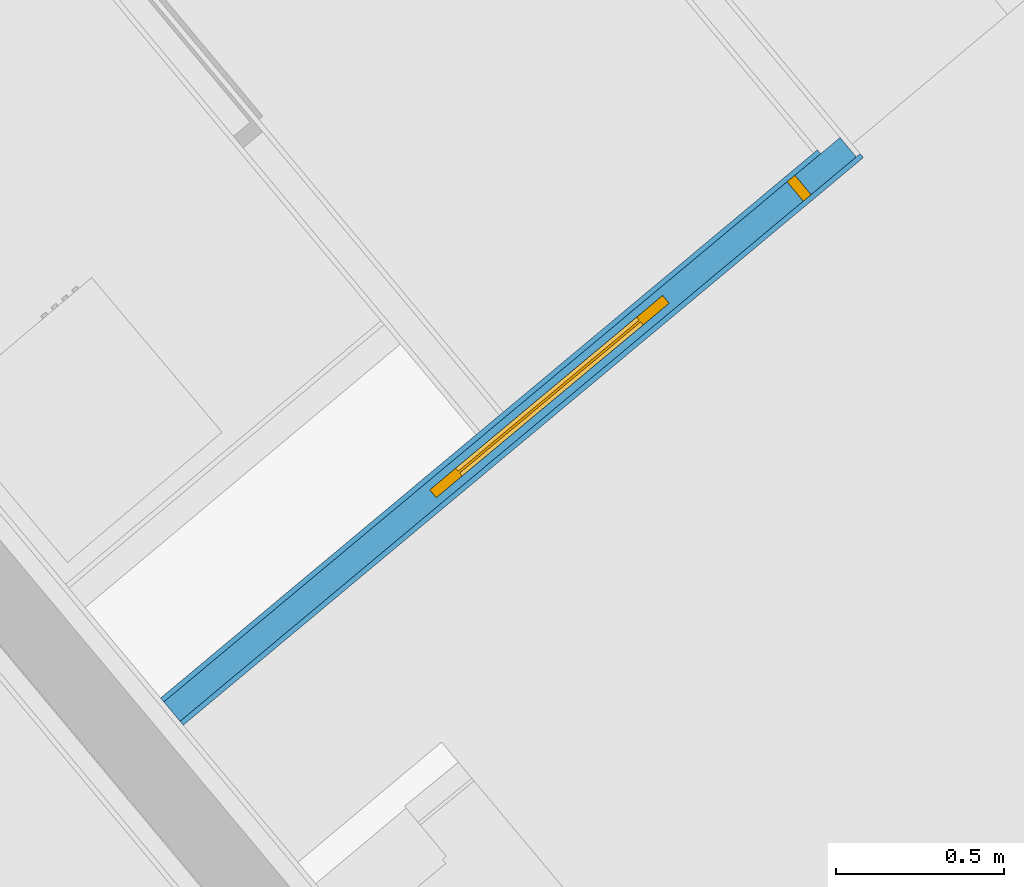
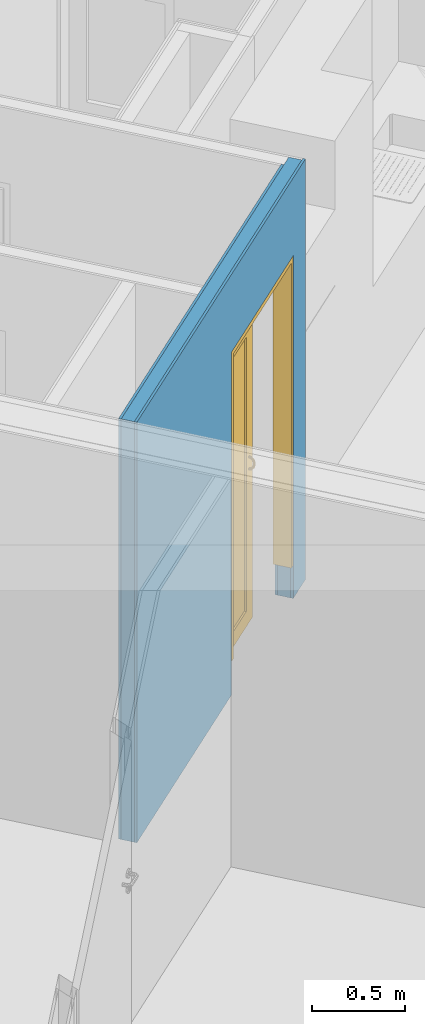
# One storey, part 13 of 61: 3 building element parts, 1 door, 1 opening, 1 element without a shape of its own.
"""IFC4 building model written with IfcOpenShell, lengths in metres."""

from ifc_helpers import new_model, entity, si_unit, converted_unit, derived_unit, direction, frame, origin_with_axes, place, context, subcontext, project, spatial, polygons, source, transform, mapped, material, type_object, element, fill, aggregate, save


model = new_model("IFC4")

# Units and contexts
model_context = context("Model", 3, precision=1e-05, world=origin_with_axes(), true_north=direction((0.0, 1.0)))
body_context = subcontext(model_context, "Body", "Model", "MODEL_VIEW")
ifc_project = project(units=[si_unit("LENGTHUNIT", "METRE"), si_unit("AREAUNIT", "SQUARE_METRE"), si_unit("VOLUMEUNIT", "CUBIC_METRE"), converted_unit("PLANEANGLEUNIT", "DEGREE", entity("IfcPlaneAngleMeasure", 0.0174532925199), si_unit("PLANEANGLEUNIT", "RADIAN"), dimensions=[0, 0, 0, 0, 0, 0, 0]), converted_unit("TIMEUNIT", "Year", entity("IfcTimeMeasure", 31556926.0), si_unit("TIMEUNIT", "SECOND"), dimensions=[0, 0, 1, 0, 0, 0, 0]), si_unit("MASSUNIT", "GRAM", prefix="KILO"), si_unit("THERMODYNAMICTEMPERATUREUNIT", "DEGREE_CELSIUS"), si_unit("LUMINOUSINTENSITYUNIT", "LUMEN"), si_unit("ENERGYUNIT", "JOULE", prefix="MEGA"), derived_unit("THERMALCONDUCTANCEUNIT", [(si_unit("POWERUNIT", "WATT"), 1), (si_unit("LENGTHUNIT", "METRE"), -1), (si_unit("THERMODYNAMICTEMPERATUREUNIT", "KELVIN"), -1)]), derived_unit("SPECIFICHEATCAPACITYUNIT", [(si_unit("ENERGYUNIT", "JOULE"), 1), (si_unit("MASSUNIT", "GRAM", prefix="KILO"), -1), (si_unit("THERMODYNAMICTEMPERATUREUNIT", "KELVIN"), -1)]), derived_unit("MASSDENSITYUNIT", [(si_unit("MASSUNIT", "GRAM", prefix="KILO"), 1), (si_unit("VOLUMEUNIT", "CUBIC_METRE"), -1)])], contexts=[model_context])

# Site, building, storey
site_placement = place(None, frame((-0.00153261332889, -0.00661245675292, 0.0), z_axis=(0.0, 0.0, 1.0), x_axis=(1.0, 0.0, 0.0)))
site = spatial("IfcSite", under=ifc_project, at=site_placement, Name="Gelände", CompositionType="ELEMENT")
building_placement = place(site_placement, origin_with_axes())
building = spatial("IfcBuilding", under=site, at=building_placement, Name="Gebäude", CompositionType="ELEMENT")
storey_placement = place(building_placement, frame((0.0, 0.0, 5.7), z_axis=(0.0, 0.0, 1.0), x_axis=(1.0, 0.0, 0.0)))
storey = spatial("IfcBuildingStorey", under=building, at=storey_placement, Name="DG1", CompositionType="ELEMENT", Elevation=5.7)

# Door
door_type = type_object("IfcDoorType", Name="Schiebetür 02 1-Fl 26", OperationType="SLIDING_TO_RIGHT", PredefinedType="NOTDEFINED")
shared_shape = source(origin_with_axes(), body_context, "Body", "Tessellation", [
    polygons([(-0.48, 0.0, 0.0), (-0.48, 0.0, 2.03), (0.48, 0.0, 2.03), (0.48, 0.0, 0.0), (0.45, 0.0, 0.0), (0.45, 0.0, 2.0), (-0.45, 0.0, 2.0), (-0.45, 0.0, 0.0)], [[[1, 2, 3, 4, 5, 6, 7, 8]]], closed=False),
    polygons([(-0.45, -0.09, 0.0), (-0.45, -0.09, 2.0), (-0.45, -0.105, 2.0), (-0.45, -0.105, 0.0), (-0.48, -0.09, 0.0), (-0.48, -0.09, 2.0), (-0.48, -0.015, 2.0), (-0.45, -0.015, 2.0), (-0.45, 0.0, 2.0), (0.45, 0.0, 2.0), (0.45, -0.105, 2.0), (0.48, -0.105, 0.0), (0.48, -0.105, 2.03), (-0.48, -0.105, 2.03), (-0.48, -0.105, 0.0), (0.45, -0.105, 0.0), (-0.48, 0.0, 2.03), (-0.48, 0.0, 0.0), (-0.48, -0.015, 0.0), (-0.45, -0.015, 0.0), (-0.45, 0.0, 0.0), (0.48, 0.0, 2.03), (0.48, 0.0, 0.0), (0.45, 0.0, 0.0)], [[[1, 2, 3, 4]], [[2, 1, 5, 6]], [[2, 6, 7, 8, 9, 10, 11, 3]], [[12, 13, 14, 15, 4, 3, 11, 16]], [[5, 1, 4, 15]], [[6, 5, 15, 14, 17, 18, 19, 7]], [[20, 8, 7, 19]], [[8, 20, 21, 9]], [[10, 9, 21, 18, 17, 22, 23, 24]], [[24, 16, 11, 10]], [[22, 13, 12, 23]], [[17, 14, 13, 22]], [[23, 12, 16, 24]], [[20, 19, 18, 21]]], closed=True),
    polygons([(-0.48, -0.105, 0.0), (-0.48, -0.105, 2.03), (0.48, -0.105, 2.03), (0.48, -0.105, 0.0), (0.45, -0.105, 0.0), (0.45, -0.105, 2.0), (-0.45, -0.105, 2.0), (-0.45, -0.105, 0.0)], [[[1, 2, 3, 4, 5, 6, 7, 8]]], closed=False),
    polygons([(-0.94995, -0.0375, 0.1), (-0.84995, -0.0375, 0.1), (-0.84995, -0.0675, 0.1), (-0.94995, -0.0675, 0.1), (-0.94995, -0.0375, 1.8999), (-0.84995, -0.0375, 1.8999), (-0.84995, -0.0675, 1.8999), (-0.94995, -0.0675, 1.8999)], [[[1, 2, 3, 4]], [[1, 5, 6, 2]], [[2, 6, 7, 3]], [[4, 3, 7, 8]], [[5, 1, 4, 8]], [[6, 5, 8, 7]]], closed=True),
    polygons([(-0.05005, -0.0375, 1.8999), (-0.15005, -0.0375, 1.8999), (-0.15005, -0.0675, 1.8999), (-0.05005, -0.0675, 1.8999), (-0.05005, -0.0375, 0.1), (-0.15005, -0.0375, 0.1), (-0.15005, -0.0675, 0.1), (-0.05005, -0.0675, 0.1)], [[[1, 2, 3, 4]], [[1, 5, 6, 2]], [[2, 6, 7, 3]], [[4, 3, 7, 8]], [[5, 1, 4, 8]], [[6, 5, 8, 7]]], closed=True),
    polygons([(-0.05005, -0.0375, 0.0), (-0.05005, -0.0375, 0.1), (-0.05005, -0.0675, 0.1), (-0.05005, -0.0675, 0.0), (-0.94995, -0.0375, 0.0), (-0.94995, -0.0375, 0.1), (-0.84995, -0.0375, 0.1), (-0.15005, -0.0375, 0.1), (-0.15005, -0.0675, 0.1), (-0.84995, -0.0675, 0.1), (-0.94995, -0.0675, 0.1), (-0.94995, -0.0675, 0.0)], [[[1, 2, 3, 4]], [[1, 5, 6, 7, 8, 2]], [[2, 8, 9, 3]], [[4, 3, 9, 10, 11, 12]], [[5, 1, 4, 12]], [[6, 5, 12, 11]], [[7, 6, 11, 10]], [[8, 7, 10, 9]]], closed=True),
    polygons([(-0.94995, -0.0375, 1.9999), (-0.94995, -0.0375, 1.8999), (-0.94995, -0.0675, 1.8999), (-0.94995, -0.0675, 1.9999), (-0.05005, -0.0375, 1.9999), (-0.05005, -0.0375, 1.8999), (-0.15005, -0.0375, 1.8999), (-0.84995, -0.0375, 1.8999), (-0.84995, -0.0675, 1.8999), (-0.15005, -0.0675, 1.8999), (-0.05005, -0.0675, 1.8999), (-0.05005, -0.0675, 1.9999)], [[[1, 2, 3, 4]], [[1, 5, 6, 7, 8, 2]], [[2, 8, 9, 3]], [[4, 3, 9, 10, 11, 12]], [[5, 1, 4, 12]], [[6, 5, 12, 11]], [[7, 6, 11, 10]], [[8, 7, 10, 9]]], closed=True),
    polygons([(-0.84995, -0.049, 0.1), (-0.15005, -0.049, 0.1), (-0.15005, -0.056, 0.1), (-0.84995, -0.056, 0.1), (-0.84995, -0.049, 1.8999), (-0.15005, -0.049, 1.8999), (-0.15005, -0.056, 1.8999), (-0.84995, -0.056, 1.8999)], [[[1, 2, 3, 4]], [[1, 5, 6, 2]], [[2, 6, 7, 3]], [[4, 3, 7, 8]], [[5, 1, 4, 8]], [[6, 5, 8, 7]]], closed=True),
    polygons([(-0.11705, -0.0825, 1.08598076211), (-0.116112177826, -0.08425, 1.08901185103), (-0.116112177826, -0.0675, 1.0935), (-0.11705, -0.0675, 1.09), (-0.11705, -0.0934807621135, 1.075), (-0.116112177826, -0.0965118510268, 1.07675), (-0.11355, -0.0855310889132, 1.09123076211), (-0.11355, -0.0675, 1.09606217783), (-0.11005, -0.0675, 1.097), (-0.10655, -0.0675, 1.09606217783), (-0.103987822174, -0.0675, 1.0935), (-0.10305, -0.0675, 1.09), (-0.103987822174, -0.0675, 1.0865), (-0.10655, -0.0675, 1.08393782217), (-0.11005, -0.0675, 1.083), (-0.11355, -0.0675, 1.08393782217), (-0.116112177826, -0.0675, 1.0865), (-0.116112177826, -0.08075, 1.0829496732), (-0.11705, -0.0975, 1.06), (-0.116112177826, -0.101, 1.06), (-0.11355, -0.0987307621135, 1.07803108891), (-0.116112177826, -0.0904496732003, 1.07325), (-0.11005, -0.086, 1.09204293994), (-0.10655, -0.0855310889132, 1.09123076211), (-0.103987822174, -0.08425, 1.08901185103), (-0.10305, -0.0825, 1.08598076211), (-0.103987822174, -0.08075, 1.0829496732), (-0.10655, -0.0794689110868, 1.08073076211), (-0.11005, -0.079, 1.07991858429), (-0.11355, -0.0794689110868, 1.08073076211), (-0.116112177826, -0.094, 1.06), (-0.11355, -0.0914378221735, 1.06), (-0.11005, -0.0905, 1.06), (-0.10655, -0.0914378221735, 1.06), (-0.103987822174, -0.094, 1.06), (-0.10305, -0.0975, 1.06), (-0.103987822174, -0.101, 1.06), (-0.10655, -0.103562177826, 1.06), (-0.11005, -0.1045, 1.06), (-0.11355, -0.103562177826, 1.06), (-0.11005, -0.09954293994, 1.0785), (-0.11355, -0.0882307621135, 1.07196891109), (-0.10655, -0.0987307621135, 1.07803108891), (-0.103987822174, -0.0965118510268, 1.07675), (-0.10305, -0.0934807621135, 1.075), (-0.103987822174, -0.0904496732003, 1.07325), (-0.10655, -0.0882307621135, 1.07196891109), (-0.11005, -0.087418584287, 1.0715)], [[[1, 2, 3, 4]], [[5, 6, 2, 1]], [[2, 7, 8, 3]], [[4, 3, 8, 9, 10, 11, 12, 13, 14, 15, 16, 17]], [[18, 1, 4, 17]], [[19, 20, 6, 5]], [[6, 21, 7, 2]], [[22, 5, 1, 18]], [[7, 23, 9, 8]], [[23, 24, 10, 9]], [[24, 25, 11, 10]], [[25, 26, 12, 11]], [[26, 27, 13, 12]], [[27, 28, 14, 13]], [[28, 29, 15, 14]], [[29, 30, 16, 15]], [[30, 18, 17, 16]], [[19, 31, 32, 33, 34, 35, 36, 37, 38, 39, 40, 20]], [[20, 40, 21, 6]], [[31, 19, 5, 22]], [[21, 41, 23, 7]], [[42, 22, 18, 30]], [[41, 43, 24, 23]], [[43, 44, 25, 24]], [[44, 45, 26, 25]], [[45, 46, 27, 26]], [[46, 47, 28, 27]], [[47, 48, 29, 28]], [[48, 42, 30, 29]], [[32, 31, 22, 42]], [[33, 32, 42, 48]], [[34, 33, 48, 47]], [[35, 34, 47, 46]], [[36, 35, 46, 45]], [[37, 36, 45, 44]], [[38, 37, 44, 43]], [[39, 38, 43, 41]], [[40, 39, 41, 21]]], closed=True),
    polygons([(-0.10305, -0.0825, 1.01401923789), (-0.103987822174, -0.08425, 1.01098814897), (-0.103987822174, -0.0675, 1.0065), (-0.10305, -0.0675, 1.01), (-0.10305, -0.0934807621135, 1.025), (-0.103987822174, -0.0965118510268, 1.02325), (-0.10655, -0.0855310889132, 1.00876923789), (-0.10655, -0.0675, 1.00393782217), (-0.11005, -0.0675, 1.003), (-0.11355, -0.0675, 1.00393782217), (-0.116112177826, -0.0675, 1.0065), (-0.11705, -0.0675, 1.01), (-0.116112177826, -0.0675, 1.0135), (-0.11355, -0.0675, 1.01606217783), (-0.11005, -0.0675, 1.017), (-0.10655, -0.0675, 1.01606217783), (-0.103987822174, -0.0675, 1.0135), (-0.103987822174, -0.08075, 1.0170503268), (-0.10305, -0.0975, 1.04), (-0.103987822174, -0.101, 1.04), (-0.10655, -0.0987307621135, 1.02196891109), (-0.103987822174, -0.0904496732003, 1.02675), (-0.11005, -0.086, 1.00795706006), (-0.11355, -0.0855310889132, 1.00876923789), (-0.116112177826, -0.08425, 1.01098814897), (-0.11705, -0.0825, 1.01401923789), (-0.116112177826, -0.08075, 1.0170503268), (-0.11355, -0.0794689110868, 1.01926923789), (-0.11005, -0.079, 1.02008141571), (-0.10655, -0.0794689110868, 1.01926923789), (-0.103987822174, -0.094, 1.04), (-0.10655, -0.0914378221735, 1.04), (-0.11005, -0.0905, 1.04), (-0.11355, -0.0914378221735, 1.04), (-0.116112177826, -0.094, 1.04), (-0.11705, -0.0975, 1.04), (-0.116112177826, -0.101, 1.04), (-0.11355, -0.103562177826, 1.04), (-0.11005, -0.1045, 1.04), (-0.10655, -0.103562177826, 1.04), (-0.11005, -0.09954293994, 1.0215), (-0.10655, -0.0882307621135, 1.02803108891), (-0.11355, -0.0987307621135, 1.02196891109), (-0.116112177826, -0.0965118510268, 1.02325), (-0.11705, -0.0934807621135, 1.025), (-0.116112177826, -0.0904496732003, 1.02675), (-0.11355, -0.0882307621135, 1.02803108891), (-0.11005, -0.087418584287, 1.0285)], [[[1, 2, 3, 4]], [[5, 6, 2, 1]], [[2, 7, 8, 3]], [[4, 3, 8, 9, 10, 11, 12, 13, 14, 15, 16, 17]], [[18, 1, 4, 17]], [[19, 20, 6, 5]], [[6, 21, 7, 2]], [[22, 5, 1, 18]], [[7, 23, 9, 8]], [[23, 24, 10, 9]], [[24, 25, 11, 10]], [[25, 26, 12, 11]], [[26, 27, 13, 12]], [[27, 28, 14, 13]], [[28, 29, 15, 14]], [[29, 30, 16, 15]], [[30, 18, 17, 16]], [[19, 31, 32, 33, 34, 35, 36, 37, 38, 39, 40, 20]], [[20, 40, 21, 6]], [[31, 19, 5, 22]], [[21, 41, 23, 7]], [[42, 22, 18, 30]], [[41, 43, 24, 23]], [[43, 44, 25, 24]], [[44, 45, 26, 25]], [[45, 46, 27, 26]], [[46, 47, 28, 27]], [[47, 48, 29, 28]], [[48, 42, 30, 29]], [[32, 31, 22, 42]], [[33, 32, 42, 48]], [[34, 33, 48, 47]], [[35, 34, 47, 46]], [[36, 35, 46, 45]], [[37, 36, 45, 44]], [[38, 37, 44, 43]], [[39, 38, 43, 41]], [[40, 39, 41, 21]]], closed=True),
    polygons([(-0.11705, -0.0975, 1.04), (-0.11705, -0.0975, 1.06), (-0.116112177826, -0.094, 1.06), (-0.116112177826, -0.094, 1.04), (-0.116112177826, -0.101, 1.04), (-0.116112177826, -0.101, 1.06), (-0.11355, -0.103562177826, 1.06), (-0.11005, -0.1045, 1.06), (-0.10655, -0.103562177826, 1.06), (-0.103987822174, -0.101, 1.06), (-0.10305, -0.0975, 1.06), (-0.103987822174, -0.094, 1.06), (-0.10655, -0.0914378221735, 1.06), (-0.11005, -0.0905, 1.06), (-0.11355, -0.0914378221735, 1.06), (-0.11355, -0.0914378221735, 1.04), (-0.11005, -0.0905, 1.04), (-0.10655, -0.0914378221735, 1.04), (-0.103987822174, -0.094, 1.04), (-0.10305, -0.0975, 1.04), (-0.103987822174, -0.101, 1.04), (-0.10655, -0.103562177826, 1.04), (-0.11005, -0.1045, 1.04), (-0.11355, -0.103562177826, 1.04)], [[[1, 2, 3, 4]], [[5, 6, 2, 1]], [[2, 6, 7, 8, 9, 10, 11, 12, 13, 14, 15, 3]], [[4, 3, 15, 16]], [[1, 4, 16, 17, 18, 19, 20, 21, 22, 23, 24, 5]], [[24, 7, 6, 5]], [[23, 8, 7, 24]], [[22, 9, 8, 23]], [[21, 10, 9, 22]], [[20, 11, 10, 21]], [[19, 12, 11, 20]], [[18, 13, 12, 19]], [[17, 14, 13, 18]], [[16, 15, 14, 17]]], closed=True),
    polygons([(-0.11705, -0.0225, 1.08598076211), (-0.11705, -0.0375, 1.09), (-0.116112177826, -0.0375, 1.0935), (-0.116112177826, -0.02075, 1.08901185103), (-0.116112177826, -0.02425, 1.0829496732), (-0.116112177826, -0.0375, 1.0865), (-0.11355, -0.0375, 1.08393782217), (-0.11005, -0.0375, 1.083), (-0.10655, -0.0375, 1.08393782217), (-0.103987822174, -0.0375, 1.0865), (-0.10305, -0.0375, 1.09), (-0.103987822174, -0.0375, 1.0935), (-0.10655, -0.0375, 1.09606217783), (-0.11005, -0.0375, 1.097), (-0.11355, -0.0375, 1.09606217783), (-0.11355, -0.0194689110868, 1.09123076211), (-0.11705, -0.0115192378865, 1.075), (-0.116112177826, -0.00848814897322, 1.07675), (-0.11355, -0.0255310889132, 1.08073076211), (-0.116112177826, -0.0145503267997, 1.07325), (-0.11005, -0.026, 1.07991858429), (-0.10655, -0.0255310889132, 1.08073076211), (-0.103987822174, -0.02425, 1.0829496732), (-0.10305, -0.0225, 1.08598076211), (-0.103987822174, -0.02075, 1.08901185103), (-0.10655, -0.0194689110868, 1.09123076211), (-0.11005, -0.019, 1.09204293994), (-0.11355, -0.00626923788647, 1.07803108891), (-0.11705, -0.0075, 1.06), (-0.116112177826, -0.004, 1.06), (-0.11355, -0.0167692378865, 1.07196891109), (-0.116112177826, -0.011, 1.06), (-0.11005, -0.017581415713, 1.0715), (-0.10655, -0.0167692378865, 1.07196891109), (-0.103987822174, -0.0145503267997, 1.07325), (-0.10305, -0.0115192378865, 1.075), (-0.103987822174, -0.00848814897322, 1.07675), (-0.10655, -0.00626923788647, 1.07803108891), (-0.11005, -0.00545706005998, 1.0785), (-0.11355, -0.00143782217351, 1.06), (-0.11005, -0.0005, 1.06), (-0.10655, -0.00143782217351, 1.06), (-0.103987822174, -0.004, 1.06), (-0.10305, -0.0075, 1.06), (-0.103987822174, -0.011, 1.06), (-0.10655, -0.0135621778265, 1.06), (-0.11005, -0.0145, 1.06), (-0.11355, -0.0135621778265, 1.06)], [[[1, 2, 3, 4]], [[5, 6, 2, 1]], [[2, 6, 7, 8, 9, 10, 11, 12, 13, 14, 15, 3]], [[4, 3, 15, 16]], [[17, 1, 4, 18]], [[19, 7, 6, 5]], [[20, 5, 1, 17]], [[21, 8, 7, 19]], [[22, 9, 8, 21]], [[23, 10, 9, 22]], [[24, 11, 10, 23]], [[25, 12, 11, 24]], [[26, 13, 12, 25]], [[27, 14, 13, 26]], [[16, 15, 14, 27]], [[18, 4, 16, 28]], [[29, 17, 18, 30]], [[31, 19, 5, 20]], [[32, 20, 17, 29]], [[33, 21, 19, 31]], [[34, 22, 21, 33]], [[35, 23, 22, 34]], [[36, 24, 23, 35]], [[37, 25, 24, 36]], [[38, 26, 25, 37]], [[39, 27, 26, 38]], [[28, 16, 27, 39]], [[30, 18, 28, 40]], [[29, 30, 40, 41, 42, 43, 44, 45, 46, 47, 48, 32]], [[48, 31, 20, 32]], [[47, 33, 31, 48]], [[46, 34, 33, 47]], [[45, 35, 34, 46]], [[44, 36, 35, 45]], [[43, 37, 36, 44]], [[42, 38, 37, 43]], [[41, 39, 38, 42]], [[40, 28, 39, 41]]], closed=True),
    polygons([(-0.10305, -0.0225, 1.01401923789), (-0.10305, -0.0375, 1.01), (-0.103987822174, -0.0375, 1.0065), (-0.103987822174, -0.02075, 1.01098814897), (-0.103987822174, -0.02425, 1.0170503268), (-0.103987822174, -0.0375, 1.0135), (-0.10655, -0.0375, 1.01606217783), (-0.11005, -0.0375, 1.017), (-0.11355, -0.0375, 1.01606217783), (-0.116112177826, -0.0375, 1.0135), (-0.11705, -0.0375, 1.01), (-0.116112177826, -0.0375, 1.0065), (-0.11355, -0.0375, 1.00393782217), (-0.11005, -0.0375, 1.003), (-0.10655, -0.0375, 1.00393782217), (-0.10655, -0.0194689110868, 1.00876923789), (-0.10305, -0.0115192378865, 1.025), (-0.103987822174, -0.00848814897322, 1.02325), (-0.10655, -0.0255310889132, 1.01926923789), (-0.103987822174, -0.0145503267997, 1.02675), (-0.11005, -0.026, 1.02008141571), (-0.11355, -0.0255310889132, 1.01926923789), (-0.116112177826, -0.02425, 1.0170503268), (-0.11705, -0.0225, 1.01401923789), (-0.116112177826, -0.02075, 1.01098814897), (-0.11355, -0.0194689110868, 1.00876923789), (-0.11005, -0.019, 1.00795706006), (-0.10655, -0.00626923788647, 1.02196891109), (-0.10305, -0.0075, 1.04), (-0.103987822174, -0.004, 1.04), (-0.10655, -0.0167692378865, 1.02803108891), (-0.103987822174, -0.011, 1.04), (-0.11005, -0.017581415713, 1.0285), (-0.11355, -0.0167692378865, 1.02803108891), (-0.116112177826, -0.0145503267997, 1.02675), (-0.11705, -0.0115192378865, 1.025), (-0.116112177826, -0.00848814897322, 1.02325), (-0.11355, -0.00626923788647, 1.02196891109), (-0.11005, -0.00545706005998, 1.0215), (-0.10655, -0.00143782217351, 1.04), (-0.11005, -0.0005, 1.04), (-0.11355, -0.00143782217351, 1.04), (-0.116112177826, -0.004, 1.04), (-0.11705, -0.0075, 1.04), (-0.116112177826, -0.011, 1.04), (-0.11355, -0.0135621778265, 1.04), (-0.11005, -0.0145, 1.04), (-0.10655, -0.0135621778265, 1.04)], [[[1, 2, 3, 4]], [[5, 6, 2, 1]], [[2, 6, 7, 8, 9, 10, 11, 12, 13, 14, 15, 3]], [[4, 3, 15, 16]], [[17, 1, 4, 18]], [[19, 7, 6, 5]], [[20, 5, 1, 17]], [[21, 8, 7, 19]], [[22, 9, 8, 21]], [[23, 10, 9, 22]], [[24, 11, 10, 23]], [[25, 12, 11, 24]], [[26, 13, 12, 25]], [[27, 14, 13, 26]], [[16, 15, 14, 27]], [[18, 4, 16, 28]], [[29, 17, 18, 30]], [[31, 19, 5, 20]], [[32, 20, 17, 29]], [[33, 21, 19, 31]], [[34, 22, 21, 33]], [[35, 23, 22, 34]], [[36, 24, 23, 35]], [[37, 25, 24, 36]], [[38, 26, 25, 37]], [[39, 27, 26, 38]], [[28, 16, 27, 39]], [[30, 18, 28, 40]], [[29, 30, 40, 41, 42, 43, 44, 45, 46, 47, 48, 32]], [[48, 31, 20, 32]], [[47, 33, 31, 48]], [[46, 34, 33, 47]], [[45, 35, 34, 46]], [[44, 36, 35, 45]], [[43, 37, 36, 44]], [[42, 38, 37, 43]], [[41, 39, 38, 42]], [[40, 28, 39, 41]]], closed=True),
    polygons([(-0.11705, -0.0075, 1.04), (-0.116112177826, -0.011, 1.04), (-0.116112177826, -0.011, 1.06), (-0.11705, -0.0075, 1.06), (-0.116112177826, -0.004, 1.04), (-0.11355, -0.00143782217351, 1.04), (-0.11005, -0.0005, 1.04), (-0.10655, -0.00143782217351, 1.04), (-0.103987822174, -0.004, 1.04), (-0.10305, -0.0075, 1.04), (-0.103987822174, -0.011, 1.04), (-0.10655, -0.0135621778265, 1.04), (-0.11005, -0.0145, 1.04), (-0.11355, -0.0135621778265, 1.04), (-0.11355, -0.0135621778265, 1.06), (-0.11005, -0.0145, 1.06), (-0.10655, -0.0135621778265, 1.06), (-0.103987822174, -0.011, 1.06), (-0.10305, -0.0075, 1.06), (-0.103987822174, -0.004, 1.06), (-0.10655, -0.00143782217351, 1.06), (-0.11005, -0.0005, 1.06), (-0.11355, -0.00143782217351, 1.06), (-0.116112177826, -0.004, 1.06)], [[[1, 2, 3, 4]], [[1, 5, 6, 7, 8, 9, 10, 11, 12, 13, 14, 2]], [[2, 14, 15, 3]], [[4, 3, 15, 16, 17, 18, 19, 20, 21, 22, 23, 24]], [[5, 1, 4, 24]], [[6, 5, 24, 23]], [[7, 6, 23, 22]], [[8, 7, 22, 21]], [[9, 8, 21, 20]], [[10, 9, 20, 19]], [[11, 10, 19, 18]], [[12, 11, 18, 17]], [[13, 12, 17, 16]], [[14, 13, 16, 15]]], closed=True),
])
wall_placement = place(storey_placement, frame((4.80817361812, 20.7633806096, 0.0), z_axis=(0.0, 0.0, 1.0), x_axis=(0.767768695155, 0.640727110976, 0.0)))
opening_placement = place(wall_placement, frame((1.95916013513, 0.0, 0.22), z_axis=(0.0, 0.0, 1.0), x_axis=(1.0, 0.0, 0.0)))
door_placement = place(opening_placement, frame((-0.45, 0.0, 0.0), z_axis=(0.0, 0.0, 1.0), x_axis=(1.0, 0.0, 0.0)))
door = element("IfcDoor", 1, at=door_placement, inside=storey, type_object=door_type, Name="Tür-001", OverallHeight=2.25, OverallWidth=0.96, PredefinedType="NOTDEFINED", context=body_context, shape_type="MappedRepresentation", body=[
    mapped(shared_shape, transform((0.45, 0.105, 0.0))),
])

# Wall, opening
wall_type = type_object("IfcWallType", Name="IW LB 01 Leichtbautrennwand einfach 10,5 cm 105", PredefinedType="NOTDEFINED")
wall = element("IfcWall", 2, at=wall_placement, inside=storey, type_object=wall_type, Name="Wand-012", PredefinedType="NOTDEFINED")
opening = element("IfcOpeningElement", 3, at=opening_placement, cuts=wall, Name="Tür-001", context=body_context, identifier="Reference", shape_type="Tessellation", body=[
    polygons([(-0.48, -1.29426735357, -0.22), (-0.48, -1.29426735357, 2.03), (-0.48, 1.39926735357, 2.03), (-0.48, 1.39926735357, -0.22), (-0.48, 0.09, 2.0), (-0.48, 0.015, 2.0), (-0.48, 0.015, 0.0), (-0.48, 0.09, 0.0), (0.48, -1.29426735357, -0.22), (0.48, -1.29426735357, 2.03), (0.48, 1.39926735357, 2.03), (0.48, 1.39926735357, -0.22), (-1.44, 0.09, 2.0), (-1.44, 0.015, 2.0), (-1.44, 0.015, 0.0), (-1.44, 0.09, 0.0)], [[[1, 2, 3, 4], [5, 6, 7, 8]], [[1, 9, 10, 2]], [[2, 10, 11, 3]], [[11, 12, 4, 3]], [[9, 1, 4, 12]], [[6, 5, 13, 14]], [[7, 6, 14, 15]], [[8, 7, 15, 16]], [[5, 8, 16, 13]], [[10, 9, 12, 11]], [[14, 13, 16, 15]]], closed=True),
])

fill(opening, door)

# Building element part
ifc_material_1 = material(Name="Gipskarton")
building_element_part_1_placement = place(wall_placement, origin_with_axes())
building_element_part_1 = element("IfcBuildingElementPart", 4, at=building_element_part_1_placement, material=ifc_material_1, Name="Gipskarton", PredefinedType="NOTDEFINED", context=body_context, shape_type="Tessellation", body=[
    polygons([(1.47916013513, 0.09, 0.22), (1.47916013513, 0.09, 2.25), (2.43916013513, 0.09, 2.25), (2.43916013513, 0.09, 0.22), (2.43916011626, 0.09, 0.0), (2.53890847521, 0.09, 0.0), (2.53890847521, 0.09, 2.76), (-5.81187822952e-05, 0.09, 2.76), (-5.81187822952e-05, 0.09, 0.0), (1.47916013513, 0.09, 0.0), (1.47916013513, 0.104999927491, 0.22), (1.47916013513, 0.104999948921, 2.25), (2.43916013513, 0.104999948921, 2.25), (2.43916013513, 0.104999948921, 0.22), (2.43916011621, 0.104999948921, 0.0), (2.53889904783, 0.105, 0.0), (2.53889904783, 0.105, 2.76), (-6.78052460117e-05, 0.105, 2.76), (-6.78052460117e-05, 0.105, 0.0), (1.47916013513, 0.104999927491, 0.0)], [[[1, 2, 3, 4, 5, 6, 7, 8, 9, 10]], [[2, 1, 11, 12]], [[3, 2, 12, 13]], [[4, 3, 13, 14]], [[4, 14, 15, 5]], [[15, 16, 6, 5]], [[16, 17, 7, 6]], [[17, 18, 8, 7]], [[19, 9, 8, 18]], [[10, 9, 19, 20]], [[11, 1, 10, 20]], [[12, 11, 20, 19, 18, 17, 16, 15, 14, 13]]], closed=True),
])

ifc_material_2 = material(Name="Mineralwolle weich")
building_element_part_2_placement = place(wall_placement, origin_with_axes())
building_element_part_2 = element("IfcBuildingElementPart", 5, at=building_element_part_2_placement, material=ifc_material_2, Name="Mineralwolle weich", PredefinedType="NOTDEFINED", context=body_context, shape_type="Tessellation", body=[
    polygons([(0.519160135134, 0.015, 0.22), (0.519160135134, 0.015, 2.22), (1.47916013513, 0.015, 2.22), (1.47916013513, 0.015, 2.25), (2.43916013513, 0.015, 2.25), (2.43916013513, 0.015, 0.22), (2.43916011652, 0.015, 0.0), (2.6139556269, 0.015, 0.0), (2.6139556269, 0.015, 2.76), (-9.68646371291e-06, 0.015, 2.76), (-9.68646371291e-06, 0.015, 0.0), (1.47916013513, 0.015, 0.0), (1.47916013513, 0.015, 0.22), (0.519160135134, 0.09, 0.22), (0.519160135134, 0.09, 2.22), (1.47916013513, 0.09, 2.22), (1.47916013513, 0.09, 2.25), (2.43916013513, 0.09, 2.25), (2.43916013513, 0.09, 0.22), (2.43916011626, 0.09, 0.0), (2.61390849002, 0.09, 0.0), (2.61390849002, 0.09, 2.76), (-5.81187822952e-05, 0.09, 2.76), (-5.81187822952e-05, 0.09, 0.0), (1.47916013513, 0.09, 0.0), (1.47916013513, 0.09, 0.22)], [[[1, 2, 3, 4, 5, 6, 7, 8, 9, 10, 11, 12, 13]], [[2, 1, 14, 15]], [[16, 3, 2, 15]], [[3, 16, 17, 4]], [[4, 17, 18, 5]], [[5, 18, 19, 6]], [[19, 20, 7, 6]], [[21, 8, 7, 20]], [[22, 9, 8, 21]], [[23, 10, 9, 22]], [[11, 10, 23, 24]], [[11, 24, 25, 12]], [[26, 13, 12, 25]], [[1, 13, 26, 14]], [[14, 26, 25, 24, 23, 22, 21, 20, 19, 18, 17, 16, 15]]], closed=True),
])

building_element_part_3_placement = place(wall_placement, origin_with_axes())
building_element_part_3 = element("IfcBuildingElementPart", 6, at=building_element_part_3_placement, material=ifc_material_1, Name="Gipskarton", PredefinedType="NOTDEFINED", context=body_context, shape_type="Tessellation", body=[
    polygons([(1.47916013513, 0.0, 0.22), (1.47916013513, 0.0, 2.25), (2.43916013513, 0.0, 2.25), (2.43916013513, 0.0, 0.22), (2.43916011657, 0.0, 0.0), (2.62896505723, 0.0, 0.0), (2.62896505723, 0.0, 2.76), (0.0, 0.0, 2.76), (0.0, 0.0, 0.0), (1.47916013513, 0.0, 0.0), (1.47916013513, 0.015, 0.22), (1.47916013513, 0.015, 2.25), (2.43916013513, 0.015, 2.25), (2.43916013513, 0.015, 0.22), (2.43916011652, 0.015, 0.0), (2.62895562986, 0.015, 0.0), (2.62895562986, 0.015, 2.76), (-9.68646371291e-06, 0.015, 2.76), (-9.68646371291e-06, 0.015, 0.0), (1.47916013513, 0.015, 0.0)], [[[1, 2, 3, 4, 5, 6, 7, 8, 9, 10]], [[2, 1, 11, 12]], [[3, 2, 12, 13]], [[4, 3, 13, 14]], [[4, 14, 15, 5]], [[15, 16, 6, 5]], [[16, 17, 7, 6]], [[17, 18, 8, 7]], [[19, 9, 8, 18]], [[10, 9, 19, 20]], [[11, 1, 10, 20]], [[12, 11, 20, 19, 18, 17, 16, 15, 14, 13]]], closed=True),
])

aggregate(wall, [building_element_part_1, building_element_part_2, building_element_part_3])

save(model, "model.ifc")
